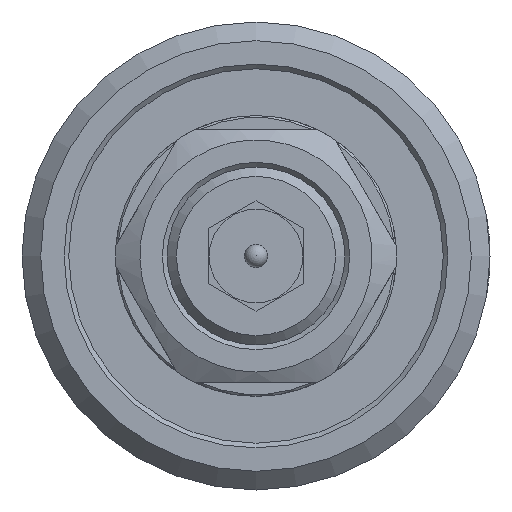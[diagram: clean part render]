
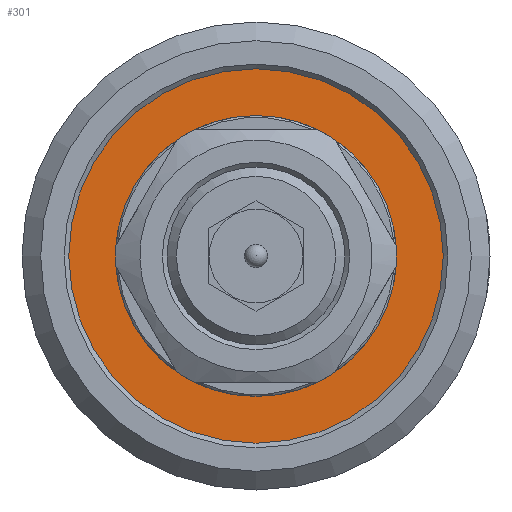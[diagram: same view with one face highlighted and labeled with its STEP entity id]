
A CAD part, left-side view. The second image highlights one B-rep face of the part: STEP entity #301.
In plain terms, the highlighted planar face has unit normal (-1, 0, 0).
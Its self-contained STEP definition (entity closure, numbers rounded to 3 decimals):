
#301 = ADVANCED_FACE( '', ( #665, #666 ), #667, .T. );
#665 = FACE_OUTER_BOUND( '', #1051, .T. );
#666 = FACE_BOUND( '', #1052, .T. );
#667 = PLANE( '', #1053 );
#1051 = EDGE_LOOP( '', ( #1745 ) );
#1052 = EDGE_LOOP( '', ( #1746 ) );
#1053 = AXIS2_PLACEMENT_3D( '', #1747, #1748, #1749 );
#1745 = ORIENTED_EDGE( '', *, *, #1858, .T. );
#1746 = ORIENTED_EDGE( '', *, *, #1998, .F. );
#1747 = CARTESIAN_POINT( '', ( -1.31, 0., -15. ) );
#1748 = DIRECTION( '', ( -1., 0., 0. ) );
#1749 = DIRECTION( '', ( 0., 0., -1. ) );
#1858 = EDGE_CURVE( '', #2128, #2128, #2129, .T. );
#1998 = EDGE_CURVE( '', #2356, #2356, #2357, .T. );
#2128 = VERTEX_POINT( '', #2521 );
#2129 = CIRCLE( '', #2522, 20. );
#2356 = VERTEX_POINT( '', #3001 );
#2357 = CIRCLE( '', #3002, 15. );
#2521 = CARTESIAN_POINT( '', ( -1.31, 0., -20. ) );
#2522 = AXIS2_PLACEMENT_3D( '', #3267, #3268, #3269 );
#3001 = CARTESIAN_POINT( '', ( -1.31, 0., -15. ) );
#3002 = AXIS2_PLACEMENT_3D( '', #3472, #3473, #3474 );
#3267 = CARTESIAN_POINT( '', ( -1.31, 0., 0. ) );
#3268 = DIRECTION( '', ( -1., 0., 0. ) );
#3269 = DIRECTION( '', ( 0., 0., -1. ) );
#3472 = CARTESIAN_POINT( '', ( -1.31, 0., 0. ) );
#3473 = DIRECTION( '', ( -1., 0., 0. ) );
#3474 = DIRECTION( '', ( 0., 0., -1. ) );
